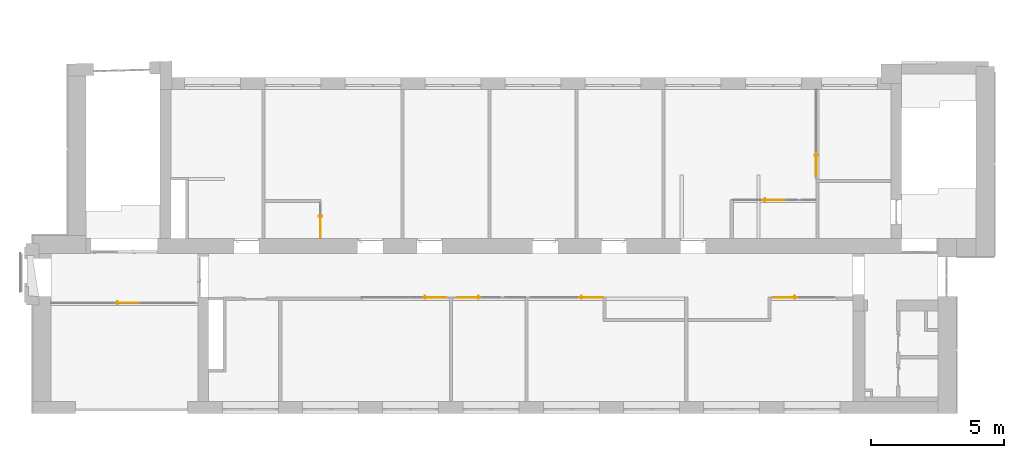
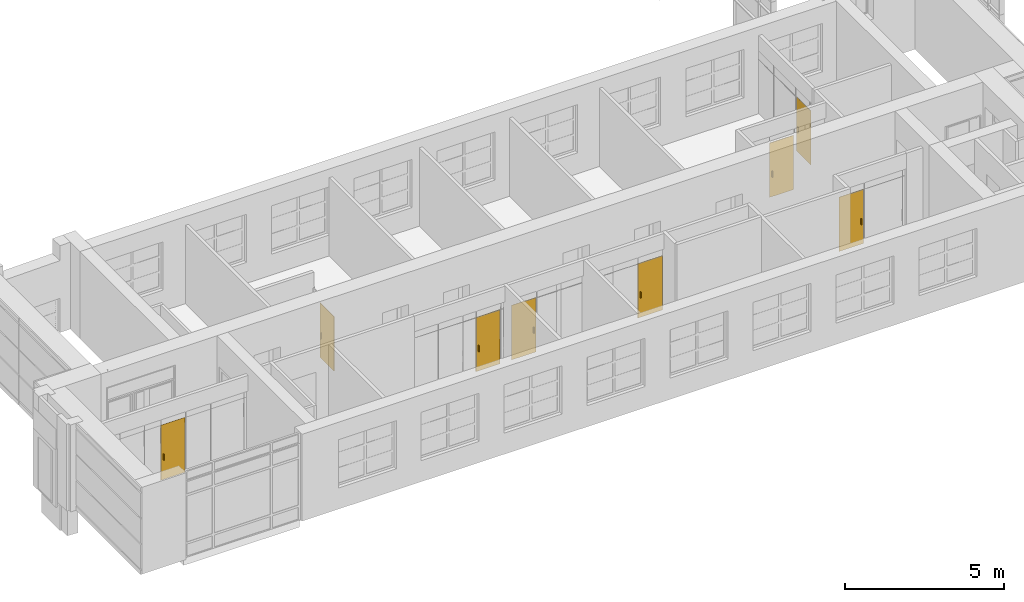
# One storey, part 72 of 73: 8 doors, 8 elements without a shape of their own.
"""IFC2X3 building model written with IfcOpenShell, lengths in millimetres."""

from ifc_helpers import new_model, entity, si_unit, converted_unit, derived_unit, direction, frame, frame_2d, origin, origin_2d_with_axis, place, context, subcontext, project, spatial, rectangle, extrude, source, transform, mapped, material, material_list, type_object, type_shapes, element, aggregate, save


model = new_model("IFC2X3")

# Units and contexts
model_context = context("Model", 3, precision=0.01, world=origin(), true_north=direction((6.12303176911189e-17, 1.0)))
body_context = subcontext(model_context, "Body", "Model", "MODEL_VIEW")
ifc_project = project(units=[si_unit("LENGTHUNIT", "METRE", prefix="MILLI"), si_unit("AREAUNIT", "SQUARE_METRE"), si_unit("VOLUMEUNIT", "CUBIC_METRE"), converted_unit("PLANEANGLEUNIT", "DEGREE", entity("IfcRatioMeasure", 0.0174532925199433), si_unit("PLANEANGLEUNIT", "RADIAN"), dimensions=[0, 0, 0, 0, 0, 0, 0]), si_unit("MASSUNIT", "GRAM", prefix="KILO"), derived_unit("MASSDENSITYUNIT", [(si_unit("MASSUNIT", "GRAM", prefix="KILO"), 1), (si_unit("LENGTHUNIT", "METRE"), -3)]), si_unit("TIMEUNIT", "SECOND"), si_unit("FREQUENCYUNIT", "HERTZ"), si_unit("THERMODYNAMICTEMPERATUREUNIT", "DEGREE_CELSIUS"), derived_unit("THERMALTRANSMITTANCEUNIT", [(si_unit("MASSUNIT", "GRAM", prefix="KILO"), 1), (si_unit("THERMODYNAMICTEMPERATUREUNIT", "KELVIN"), -1), (si_unit("TIMEUNIT", "SECOND"), -3)]), derived_unit("VOLUMETRICFLOWRATEUNIT", [(si_unit("LENGTHUNIT", "METRE"), 3), (si_unit("TIMEUNIT", "SECOND"), -1)]), si_unit("ELECTRICCURRENTUNIT", "AMPERE"), si_unit("ELECTRICVOLTAGEUNIT", "VOLT"), si_unit("POWERUNIT", "WATT"), si_unit("FORCEUNIT", "NEWTON", prefix="KILO"), si_unit("ILLUMINANCEUNIT", "LUX"), si_unit("LUMINOUSFLUXUNIT", "LUMEN"), si_unit("LUMINOUSINTENSITYUNIT", "CANDELA"), derived_unit("USERDEFINED", [(si_unit("MASSUNIT", "GRAM", prefix="KILO"), -1), (si_unit("LENGTHUNIT", "METRE"), -2), (si_unit("TIMEUNIT", "SECOND"), 3), (si_unit("LUMINOUSFLUXUNIT", "LUMEN"), 1)]), derived_unit("LINEARVELOCITYUNIT", [(si_unit("LENGTHUNIT", "METRE"), 1), (si_unit("TIMEUNIT", "SECOND"), -1)]), si_unit("PRESSUREUNIT", "PASCAL"), derived_unit("USERDEFINED", [(si_unit("LENGTHUNIT", "METRE"), -2), (si_unit("MASSUNIT", "GRAM", prefix="KILO"), 1), (si_unit("TIMEUNIT", "SECOND"), -2)])], contexts=[model_context])

# Site, building, storey
site_placement = place(None, frame((-151.875543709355, 2715.0, 0.0)))
site = spatial("IfcSite", under=ifc_project, at=site_placement, Name="Surface", CompositionType="ELEMENT")
building_placement = place(site_placement, origin())
building = spatial("IfcBuilding", under=site, at=building_placement, CompositionType="ELEMENT")
storey_placement = place(building_placement, frame((0.0, 0.0, 6730.43000000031)))
storey = spatial("IfcBuildingStorey", under=building, at=storey_placement, Name="3 korrus", CompositionType="ELEMENT", Elevation=6730.43000000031)

# Curtain wall, door
curtain_wall_type_1 = type_object("IfcCurtainWallType", Name="Curtain Wall:Klaassein KLS-10", PredefinedType="NOTDEFINED")
curtain_wall_1_placement = place(storey_placement, frame((0.0, 0.0, -6730.43000000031)))
curtain_wall_1 = element("IfcCurtainWall", 1, at=curtain_wall_1_placement, inside=storey, type_object=curtain_wall_type_1, Name="Curtain Wall:Klaassein KLS-10", ObjectType="Curtain Wall:Klaassein KLS-10")
ifc_material_1 = material(Name="Glass")
ifc_material_2 = material(Name="Aluminum")
ifc_material_list_1 = material_list([ifc_material_1, ifc_material_2])
ifc_material_list_2 = material_list([ifc_material_1, ifc_material_2])
door_style_1 = type_object("IfcDoorStyle", Name="Klaasuks", ConstructionType="NOTDEFINED", OperationType="NOTDEFINED", ParameterTakesPrecedence=False, Sizeable=False, material=ifc_material_list_2)
shared_shape_1 = source(origin(), body_context, "Body", "SweptSolid", [
    extrude(rectangle(XDim=879.999999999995, YDim=12.7000000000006, at=origin_2d_with_axis()), frame((0.0, -6.34999999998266, 0.0), z_axis=(0.0, 0.0, 1.0), x_axis=(-1.0, 0.0, 0.0)), (0.0, 0.0, 1.0), 2090.0),
    extrude(rectangle(XDim=50.8, YDim=25.3999999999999, at=origin_2d_with_axis()), frame((-351.099999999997, -38.099999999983, 762.0), z_axis=(0.0, 0.0, 1.0), x_axis=(0.0, 1.0, 0.0)), (0.0, 0.0, 1.0), 228.6),
    extrude(rectangle(XDim=50.8, YDim=25.3999999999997, at=frame_2d((0.0, 3.37507799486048e-14), x_axis=(1.0, 0.0))), frame((-351.099999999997, 25.4000000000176, 762.0), z_axis=(0.0, 0.0, 1.0), x_axis=(0.0, -1.0, 0.0)), (0.0, 0.0, 1.0), 228.6),
])
type_shapes(door_style_1, [shared_shape_1])
door_1_placement = place(curtain_wall_1_placement, frame((10572.8493480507, 7050.0, 6730.43000000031), z_axis=(0.0, 0.0, 1.0), x_axis=(0.0, -1.0, 0.0)))
door_1 = element("IfcDoor", 2, at=door_1_placement, type_object=door_style_1, material=ifc_material_list_1, Name="Door-Curtain-Wall-Single-Glass:Klaasuks", ObjectType="Klaasuks", OverallHeight=2090.0, OverallWidth=879.999999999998, context=body_context, shape_type="MappedRepresentation", body=[
    mapped(shared_shape_1, transform((0.0, 0.0, 0.0), scale=1.0)),
])
aggregate(curtain_wall_1, [door_1])

curtain_wall_type_2 = type_object("IfcCurtainWallType", Name="Curtain Wall:Klaassein KLS-17", PredefinedType="NOTDEFINED")
curtain_wall_2_placement = place(storey_placement, frame((0.0, 0.0, -6730.43000000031)))
curtain_wall_2 = element("IfcCurtainWall", 3, at=curtain_wall_2_placement, inside=storey, type_object=curtain_wall_type_2, Name="Curtain Wall:Klaassein KLS-17", ObjectType="Curtain Wall:Klaassein KLS-17")
ifc_material_list_3 = material_list([ifc_material_1, ifc_material_2])
ifc_material_list_4 = material_list([ifc_material_1, ifc_material_2])
door_style_2 = type_object("IfcDoorStyle", Name="Klaasuks", ConstructionType="NOTDEFINED", OperationType="NOTDEFINED", ParameterTakesPrecedence=False, Sizeable=False, material=ifc_material_list_4)
shared_shape_2 = source(origin(), body_context, "Body", "SweptSolid", [
    extrude(rectangle(XDim=12.7000000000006, YDim=879.999999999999, at=origin_2d_with_axis()), frame((0.0, 6.34999999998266, 0.0), z_axis=(0.0, 0.0, 1.0), x_axis=(0.0, 1.0, 0.0)), (0.0, 0.0, 1.0), 2080.0),
    extrude(rectangle(XDim=25.3999999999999, YDim=50.8, at=frame_2d((0.0, -3.5527136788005e-15), x_axis=(1.0, 0.0))), frame((-351.099999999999, 38.099999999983, 762.0), z_axis=(0.0, 0.0, 1.0), x_axis=(-1.0, 0.0, 0.0)), (0.0, 0.0, 1.0), 228.6),
    extrude(rectangle(XDim=25.3999999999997, YDim=50.8, at=frame_2d((3.37507799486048e-14, -1.77635683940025e-15), x_axis=(1.0, 0.0))), frame((-351.1, -25.4000000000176, 762.0)), (0.0, 0.0, 1.0), 228.6),
])
type_shapes(door_style_2, [shared_shape_2])
door_2_placement = place(curtain_wall_2_placement, frame((14841.5647264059, 4355.04493399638, 6730.43000000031)))
door_2 = element("IfcDoor", 4, at=door_2_placement, type_object=door_style_2, material=ifc_material_list_3, Name="Door-Curtain-Wall-Single-Glass:Klaasuks", ObjectType="Klaasuks", OverallHeight=2080.0, OverallWidth=880.000000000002, context=body_context, shape_type="MappedRepresentation", body=[
    mapped(shared_shape_2, transform((0.0, 0.0, 0.0), scale=1.0)),
])
aggregate(curtain_wall_2, [door_2])

curtain_wall_type_3 = type_object("IfcCurtainWallType", Name="Curtain Wall:Klaassein KLS-20", PredefinedType="NOTDEFINED")
curtain_wall_3_placement = place(storey_placement, frame((0.0, 0.0, -6730.43000000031)))
curtain_wall_3 = element("IfcCurtainWall", 5, at=curtain_wall_3_placement, inside=storey, type_object=curtain_wall_type_3, Name="Curtain Wall:Klaassein KLS-20", ObjectType="Curtain Wall:Klaassein KLS-20")
ifc_material_list_5 = material_list([ifc_material_1, ifc_material_2])
ifc_material_list_6 = material_list([ifc_material_1, ifc_material_2])
door_style_3 = type_object("IfcDoorStyle", Name="Klaasuks", ConstructionType="NOTDEFINED", OperationType="NOTDEFINED", ParameterTakesPrecedence=False, Sizeable=False, material=ifc_material_list_6)
shared_shape_3 = source(origin(), body_context, "Body", "SweptSolid", [
    extrude(rectangle(XDim=879.999999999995, YDim=12.7000000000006, at=origin_2d_with_axis()), frame((0.0, -6.34999999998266, 0.0), z_axis=(0.0, 0.0, 1.0), x_axis=(-1.0, 0.0, 0.0)), (0.0, 0.0, 1.0), 2080.0),
    extrude(rectangle(XDim=50.8, YDim=25.3999999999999, at=origin_2d_with_axis()), frame((-351.099999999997, -38.099999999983, 762.0), z_axis=(0.0, 0.0, 1.0), x_axis=(0.0, 1.0, 0.0)), (0.0, 0.0, 1.0), 228.6),
    extrude(rectangle(XDim=50.8, YDim=25.3999999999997, at=frame_2d((0.0, 3.37507799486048e-14), x_axis=(1.0, 0.0))), frame((-351.099999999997, 25.4000000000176, 762.0), z_axis=(0.0, 0.0, 1.0), x_axis=(0.0, -1.0, 0.0)), (0.0, 0.0, 1.0), 228.6),
])
type_shapes(door_style_3, [shared_shape_3])
door_3_placement = place(curtain_wall_3_placement, frame((28011.564726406, 4355.04493399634, 6730.43000000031), z_axis=(0.0, 0.0, 1.0), x_axis=(-1.0, 0.0, 0.0)))
door_3 = element("IfcDoor", 6, at=door_3_placement, type_object=door_style_3, material=ifc_material_list_5, Name="Door-Curtain-Wall-Single-Glass:Klaasuks", ObjectType="Klaasuks", OverallHeight=2080.0, OverallWidth=879.999999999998, context=body_context, shape_type="MappedRepresentation", body=[
    mapped(shared_shape_3, transform((0.0, 0.0, 0.0), scale=1.0)),
])
aggregate(curtain_wall_3, [door_3])

curtain_wall_type_4 = type_object("IfcCurtainWallType", Name="Curtain Wall:Klaassein KLS-21", PredefinedType="NOTDEFINED")
curtain_wall_4_placement = place(storey_placement, frame((0.0, 0.0, -6730.43000000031)))
curtain_wall_4 = element("IfcCurtainWall", 7, at=curtain_wall_4_placement, inside=storey, type_object=curtain_wall_type_4, Name="Curtain Wall:Klaassein KLS-21", ObjectType="Curtain Wall:Klaassein KLS-21")
ifc_material_list_7 = material_list([ifc_material_1, ifc_material_2])
door_4_placement = place(curtain_wall_4_placement, frame((27594.1393811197, 8021.06145812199, 6730.43000000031)))
door_4 = element("IfcDoor", 8, at=door_4_placement, type_object=door_style_3, material=ifc_material_list_7, Name="Door-Curtain-Wall-Single-Glass:Klaasuks", ObjectType="Klaasuks", OverallHeight=2080.0, OverallWidth=879.999999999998, context=body_context, shape_type="MappedRepresentation", body=[
    mapped(shared_shape_3, transform((0.0, 0.0, 0.0), scale=1.0)),
])
aggregate(curtain_wall_4, [door_4])

curtain_wall_type_5 = type_object("IfcCurtainWallType", Name="Curtain Wall:Klaassein KLS-19", PredefinedType="NOTDEFINED")
curtain_wall_5_placement = place(storey_placement, frame((0.0, 0.0, -6730.43000000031)))
curtain_wall_5 = element("IfcCurtainWall", 9, at=curtain_wall_5_placement, inside=storey, type_object=curtain_wall_type_5, Name="Curtain Wall:Klaassein KLS-19", ObjectType="Curtain Wall:Klaassein KLS-19")
ifc_material_list_8 = material_list([ifc_material_1, ifc_material_2])
ifc_material_list_9 = material_list([ifc_material_1, ifc_material_2])
door_style_4 = type_object("IfcDoorStyle", Name="Klaasuks", ConstructionType="NOTDEFINED", OperationType="NOTDEFINED", ParameterTakesPrecedence=False, Sizeable=False, material=ifc_material_list_9)
shared_shape_4 = source(origin(), body_context, "Body", "SweptSolid", [
    extrude(rectangle(XDim=12.7000000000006, YDim=891.000000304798, at=origin_2d_with_axis()), frame((0.0, 6.34999999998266, 0.0), z_axis=(0.0, 0.0, 1.0), x_axis=(0.0, 1.0, 0.0)), (0.0, 0.0, 1.0), 2090.0),
    extrude(rectangle(XDim=25.3999999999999, YDim=50.8, at=frame_2d((0.0, -3.5527136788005e-15), x_axis=(1.0, 0.0))), frame((-356.600000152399, 38.099999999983, 762.0), z_axis=(0.0, 0.0, 1.0), x_axis=(-1.0, 0.0, 0.0)), (0.0, 0.0, 1.0), 228.6),
    extrude(rectangle(XDim=25.3999999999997, YDim=50.8, at=frame_2d((3.37507799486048e-14, -1.77635683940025e-15), x_axis=(1.0, 0.0))), frame((-356.600000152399, -25.4000000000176, 762.0)), (0.0, 0.0, 1.0), 228.6),
])
type_shapes(door_style_4, [shared_shape_4])
door_5_placement = place(curtain_wall_5_placement, frame((20717.5647262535, 4355.04493399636, 6730.43000000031)))
door_5 = element("IfcDoor", 10, at=door_5_placement, type_object=door_style_4, material=ifc_material_list_8, Name="Door-Curtain-Wall-Single-Glass:Klaasuks", ObjectType="Klaasuks", OverallHeight=2090.0, OverallWidth=891.000000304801, context=body_context, shape_type="MappedRepresentation", body=[
    mapped(shared_shape_4, transform((0.0, 0.0, 0.0), scale=1.0)),
])
aggregate(curtain_wall_5, [door_5])

curtain_wall_type_6 = type_object("IfcCurtainWallType", Name="Curtain Wall:Klaassein KLS-18", PredefinedType="NOTDEFINED")
curtain_wall_6_placement = place(storey_placement, frame((0.0, 0.0, -6730.43000000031)))
curtain_wall_6 = element("IfcCurtainWall", 11, at=curtain_wall_6_placement, inside=storey, type_object=curtain_wall_type_6, Name="Curtain Wall:Klaassein KLS-18", ObjectType="Curtain Wall:Klaassein KLS-18")
ifc_material_list_10 = material_list([ifc_material_1, ifc_material_2])
ifc_material_list_11 = material_list([ifc_material_1, ifc_material_2])
door_style_5 = type_object("IfcDoorStyle", Name="Klaasuks", ConstructionType="NOTDEFINED", OperationType="NOTDEFINED", ParameterTakesPrecedence=False, Sizeable=False, material=ifc_material_list_11)
shared_shape_5 = source(origin(), body_context, "Body", "SweptSolid", [
    extrude(rectangle(XDim=880.000000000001, YDim=12.7000000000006, at=origin_2d_with_axis()), frame((0.0, -6.34999999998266, 0.0), z_axis=(0.0, 0.0, 1.0), x_axis=(-1.0, 0.0, 0.0)), (0.0, 0.0, 1.0), 2090.0),
    extrude(rectangle(XDim=50.8, YDim=25.3999999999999, at=origin_2d_with_axis()), frame((-351.1, -38.099999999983, 762.0), z_axis=(0.0, 0.0, 1.0), x_axis=(0.0, 1.0, 0.0)), (0.0, 0.0, 1.0), 228.6),
    extrude(rectangle(XDim=50.8, YDim=25.3999999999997, at=frame_2d((0.0, 3.37507799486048e-14), x_axis=(1.0, 0.0))), frame((-351.100000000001, 25.4000000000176, 762.0), z_axis=(0.0, 0.0, 1.0), x_axis=(0.0, -1.0, 0.0)), (0.0, 0.0, 1.0), 228.6),
])
type_shapes(door_style_5, [shared_shape_5])
door_6_placement = place(curtain_wall_6_placement, frame((16139.4201096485, 4355.04493399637, 6730.43000000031), z_axis=(0.0, 0.0, 1.0), x_axis=(-1.0, 0.0, 0.0)))
door_6 = element("IfcDoor", 12, at=door_6_placement, type_object=door_style_5, material=ifc_material_list_10, Name="Door-Curtain-Wall-Single-Glass:Klaasuks", ObjectType="Klaasuks", OverallHeight=2090.0, OverallWidth=880.000000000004, context=body_context, shape_type="MappedRepresentation", body=[
    mapped(shared_shape_5, transform((0.0, 0.0, 0.0), scale=1.0)),
])
aggregate(curtain_wall_6, [door_6])

curtain_wall_type_7 = type_object("IfcCurtainWallType", Name="Curtain Wall:Klaassein KLS-07", PredefinedType="NOTDEFINED")
curtain_wall_7_placement = place(storey_placement, frame((0.0, 0.0, -6730.43000000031)))
curtain_wall_7 = element("IfcCurtainWall", 13, at=curtain_wall_7_placement, inside=storey, type_object=curtain_wall_type_7, Name="Curtain Wall:Klaassein KLS-07", ObjectType="Curtain Wall:Klaassein KLS-07")
ifc_material_list_12 = material_list([ifc_material_1, ifc_material_2])
ifc_material_list_13 = material_list([ifc_material_1, ifc_material_2])
door_style_6 = type_object("IfcDoorStyle", Name="Klaasuks", ConstructionType="NOTDEFINED", OperationType="NOTDEFINED", ParameterTakesPrecedence=False, Sizeable=False, material=ifc_material_list_13)
shared_shape_6 = source(origin(), body_context, "Body", "SweptSolid", [
    extrude(rectangle(XDim=12.7000000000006, YDim=880.0, at=origin_2d_with_axis()), frame((0.0, 6.34999999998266, 0.0), z_axis=(0.0, 0.0, 1.0), x_axis=(0.0, 1.0, 0.0)), (0.0, 0.0, 1.0), 2110.0),
    extrude(rectangle(XDim=25.3999999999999, YDim=50.8, at=frame_2d((0.0, -3.5527136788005e-15), x_axis=(1.0, 0.0))), frame((-351.1, 38.099999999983, 762.0), z_axis=(0.0, 0.0, 1.0), x_axis=(-1.0, 0.0, 0.0)), (0.0, 0.0, 1.0), 228.6),
    extrude(rectangle(XDim=25.3999999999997, YDim=50.8, at=frame_2d((3.37507799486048e-14, -1.77635683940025e-15), x_axis=(1.0, 0.0))), frame((-351.1, -25.4000000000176, 762.0)), (0.0, 0.0, 1.0), 228.6),
])
type_shapes(door_style_6, [shared_shape_6])
door_7_placement = place(curtain_wall_7_placement, frame((3299.87554580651, 4155.04146275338, 6730.43000000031)))
door_7 = element("IfcDoor", 14, at=door_7_placement, type_object=door_style_6, material=ifc_material_list_12, Name="Door-Curtain-Wall-Single-Glass:Klaasuks", ObjectType="Klaasuks", OverallHeight=2110.0, OverallWidth=880.000000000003, context=body_context, shape_type="MappedRepresentation", body=[
    mapped(shared_shape_6, transform((0.0, 0.0, 0.0), scale=1.0)),
])
aggregate(curtain_wall_7, [door_7])

curtain_wall_type_8 = type_object("IfcCurtainWallType", Name="Curtain Wall:Klaassein KLS-22", PredefinedType="NOTDEFINED")
curtain_wall_8_placement = place(storey_placement, frame((0.0, 0.0, -6730.43000000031)))
curtain_wall_8 = element("IfcCurtainWall", 15, at=curtain_wall_8_placement, inside=storey, type_object=curtain_wall_type_8, Name="Curtain Wall:Klaassein KLS-22", ObjectType="Curtain Wall:Klaassein KLS-22")
ifc_material_list_14 = material_list([ifc_material_1, ifc_material_2])
ifc_material_list_15 = material_list([ifc_material_1, ifc_material_2])
door_style_7 = type_object("IfcDoorStyle", Name="Klaasuks", ConstructionType="NOTDEFINED", OperationType="NOTDEFINED", ParameterTakesPrecedence=False, Sizeable=False, material=ifc_material_list_15)
shared_shape_7 = source(origin(), body_context, "Body", "SweptSolid", [
    extrude(rectangle(XDim=12.7000000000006, YDim=879.999999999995, at=origin_2d_with_axis()), frame((0.0, 6.34999999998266, 0.0), z_axis=(0.0, 0.0, 1.0), x_axis=(0.0, 1.0, 0.0)), (0.0, 0.0, 1.0), 2080.0),
    extrude(rectangle(XDim=25.3999999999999, YDim=50.8, at=frame_2d((0.0, -3.5527136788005e-15), x_axis=(1.0, 0.0))), frame((-351.099999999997, 38.099999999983, 762.0), z_axis=(0.0, 0.0, 1.0), x_axis=(-1.0, 0.0, 0.0)), (0.0, 0.0, 1.0), 228.6),
    extrude(rectangle(XDim=25.3999999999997, YDim=50.8, at=frame_2d((3.37507799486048e-14, -1.77635683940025e-15), x_axis=(1.0, 0.0))), frame((-351.099999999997, -25.4000000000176, 762.0)), (0.0, 0.0, 1.0), 228.6),
])
type_shapes(door_style_7, [shared_shape_7])
door_8_placement = place(curtain_wall_8_placement, frame((29165.6162681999, 9339.8297238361, 6730.43000000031), z_axis=(0.0, 0.0, 1.0), x_axis=(0.0, -1.0, 0.0)))
door_8 = element("IfcDoor", 16, at=door_8_placement, type_object=door_style_7, material=ifc_material_list_14, Name="Door-Curtain-Wall-Single-Glass:Klaasuks", ObjectType="Klaasuks", OverallHeight=2080.0, OverallWidth=879.999999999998, context=body_context, shape_type="MappedRepresentation", body=[
    mapped(shared_shape_7, transform((0.0, 0.0, 0.0), scale=1.0)),
])
aggregate(curtain_wall_8, [door_8])

save(model, "model.ifc")
